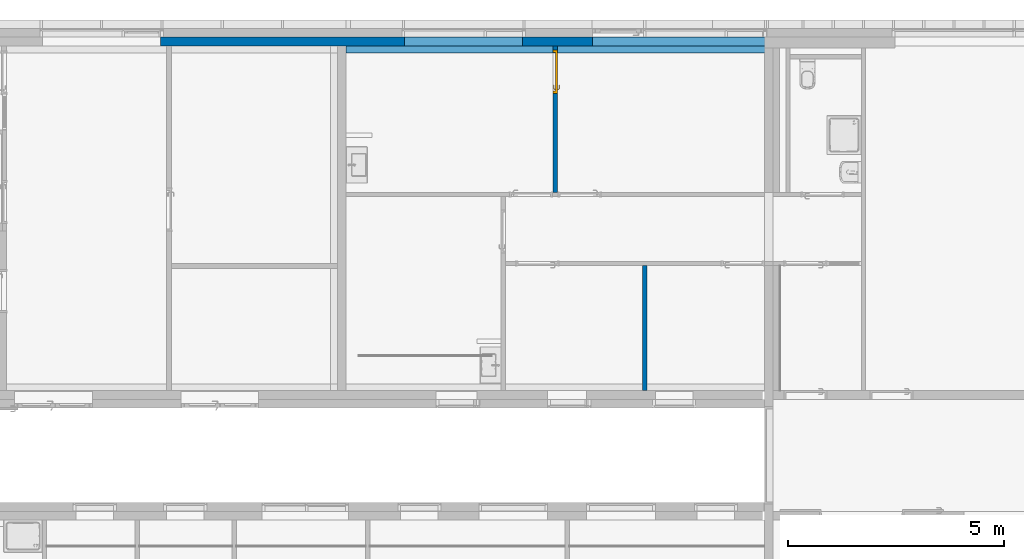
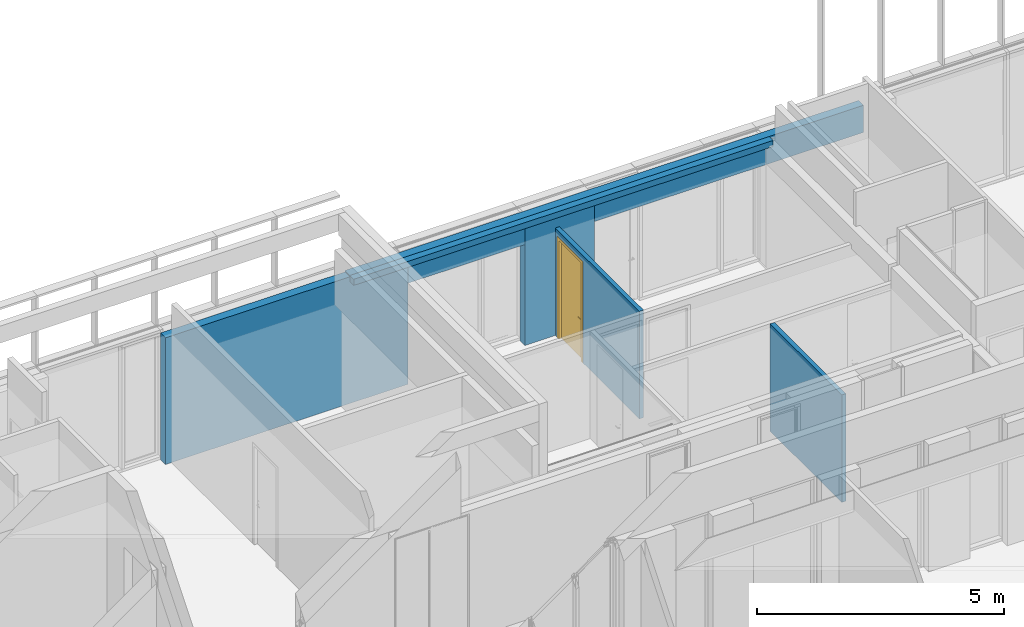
# One storey, part 134 of 240: 6 walls, 1 door, 1 opening.
"""IFC2X3 building model written with IfcOpenShell, lengths in centimetres."""

from ifc_helpers import new_model, entity, si_unit, converted_unit, derived_unit, direction, frame, frame_2d, origin, place, context, subcontext, project, spatial, polyline, rectangle, extrude, clip, halfspace, bounded_halfspace, faceted_brep, source, transform, mapped, material, material_list, layer, layer_set, layer_usage, type_object, type_shapes, element, fill, save


model = new_model("IFC2X3")

# Units and contexts
model_context = context("Model", 3, precision=0.001, world=origin(), true_north=direction((6.12303176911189e-17, 1.0)))
body_context = subcontext(model_context, "Body", "Model", "MODEL_VIEW")
ifc_project = project(units=[si_unit("LENGTHUNIT", "METRE", prefix="CENTI"), si_unit("AREAUNIT", "SQUARE_METRE"), si_unit("VOLUMEUNIT", "CUBIC_METRE"), converted_unit("PLANEANGLEUNIT", "DEGREE", entity("IfcRatioMeasure", 0.0174532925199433), si_unit("PLANEANGLEUNIT", "RADIAN"), dimensions=[0, 0, 0, 0, 0, 0, 0]), si_unit("MASSUNIT", "GRAM", prefix="KILO"), derived_unit("MASSDENSITYUNIT", [(si_unit("MASSUNIT", "GRAM", prefix="KILO"), 1), (si_unit("LENGTHUNIT", "METRE"), -3)]), si_unit("TIMEUNIT", "SECOND"), si_unit("FREQUENCYUNIT", "HERTZ"), si_unit("THERMODYNAMICTEMPERATUREUNIT", "DEGREE_CELSIUS"), derived_unit("THERMALTRANSMITTANCEUNIT", [(si_unit("MASSUNIT", "GRAM", prefix="KILO"), 1), (si_unit("THERMODYNAMICTEMPERATUREUNIT", "KELVIN"), -1), (si_unit("TIMEUNIT", "SECOND"), -3)]), derived_unit("VOLUMETRICFLOWRATEUNIT", [(si_unit("LENGTHUNIT", "METRE"), 3), (si_unit("TIMEUNIT", "SECOND"), -1)]), si_unit("ELECTRICCURRENTUNIT", "AMPERE"), si_unit("ELECTRICVOLTAGEUNIT", "VOLT"), si_unit("POWERUNIT", "WATT"), si_unit("FORCEUNIT", "NEWTON", prefix="KILO"), si_unit("ILLUMINANCEUNIT", "LUX"), si_unit("LUMINOUSFLUXUNIT", "LUMEN"), si_unit("LUMINOUSINTENSITYUNIT", "CANDELA"), derived_unit("USERDEFINED", [(si_unit("MASSUNIT", "GRAM", prefix="KILO"), -1), (si_unit("LENGTHUNIT", "METRE"), -2), (si_unit("TIMEUNIT", "SECOND"), 3), (si_unit("LUMINOUSFLUXUNIT", "LUMEN"), 1)]), derived_unit("LINEARVELOCITYUNIT", [(si_unit("LENGTHUNIT", "METRE"), 1), (si_unit("TIMEUNIT", "SECOND"), -1)]), si_unit("PRESSUREUNIT", "PASCAL"), derived_unit("USERDEFINED", [(si_unit("LENGTHUNIT", "METRE"), -2), (si_unit("MASSUNIT", "GRAM", prefix="KILO"), 1), (si_unit("TIMEUNIT", "SECOND"), -2)])], contexts=[model_context])

# Site, building, storey
site_placement = place(None, frame((-2781.94577612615, 7442.24238424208, 0.0)))
site = spatial("IfcSite", under=ifc_project, at=site_placement, Name="Default", CompositionType="ELEMENT")
building_placement = place(site_placement, origin())
building = spatial("IfcBuilding", under=site, at=building_placement, CompositionType="ELEMENT")
storey_placement = place(building_placement, origin())
storey = spatial("IfcBuildingStorey", under=building, at=storey_placement, Name="N00 - COO", CompositionType="ELEMENT", Elevation=0.0)

# Walls
ifc_material_1 = material(Name="01 - Maçonnerie")
ifc_layer_1 = layer(ifc_material_1, 20.0)
ifc_layer_set_1 = layer_set([ifc_layer_1], Name="Mur de base:04 - Structure - béton - 20cm")
ifc_layer_usage_1 = layer_usage(ifc_layer_set_1, "AXIS2", "NEGATIVE", 10.0)
wall_type_1 = type_object("IfcWallType", Name="Mur de base:04 - Structure - béton - 20cm", PredefinedType="STANDARD", material=ifc_layer_set_1)
wall_1_placement = place(building_placement, frame((-8828.01771068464, 0.0, 0.0), z_axis=(0.0, 0.0, 1.0), x_axis=(-1.0, 0.0, 0.0)))
element("IfcWallStandardCase", 1, at=wall_1_placement, inside=storey, type_object=wall_type_1, material=ifc_layer_usage_1, Name="Mur de base:04 - Structure - béton - 20cm", ObjectType="Mur de base:04 - Structure - béton - 20cm", context=body_context, shape_type="Clipping", body=[
    clip(extrude(rectangle(XDim=162.232166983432, YDim=20.0, at=frame_2d((81.116083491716, 0.0), x_axis=(-1.0, 0.0))), origin(), (0.0, 0.0, 1.0), 301.999999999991), halfspace(frame((0.0, -10.0, 302.0), z_axis=(0.0, 0.0, 1.0), x_axis=(0.0, 1.0, 0.0)), False)),
])
ifc_layer_usage_2 = layer_usage(ifc_layer_set_1, "AXIS2", "NEGATIVE", 10.0)
wall_2_placement = place(storey_placement, frame((-9399.49987766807, 0.0, 249.500000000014)))
element("IfcWallStandardCase", 2, at=wall_2_placement, inside=storey, type_object=wall_type_1, material=ifc_layer_usage_2, Name="Mur de base:04 - Structure - béton - 20cm", ObjectType="Mur de base:04 - Structure - béton - 20cm", context=body_context, shape_type="SweptSolid", body=[
    extrude(rectangle(XDim=1200.0, YDim=20.0, at=frame_2d((600.0, -8.88178419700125e-16), x_axis=(-1.0, 0.0))), origin(), (0.0, 0.0, 1.0), 67.0000000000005),
])
ifc_layer_usage_3 = layer_usage(ifc_layer_set_1, "AXIS2", "NEGATIVE", 10.0)
wall_3_placement = place(building_placement, frame((-9263.74987766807, 0.0, 0.0), z_axis=(0.0, 0.0, 1.0), x_axis=(-1.0, 0.0, 0.0)))
element("IfcWallStandardCase", 3, at=wall_3_placement, inside=storey, type_object=wall_type_1, material=ifc_layer_usage_3, Name="Mur de base:04 - Structure - béton - 20cm", ObjectType="Mur de base:04 - Structure - béton - 20cm", context=body_context, shape_type="SweptSolid", body=[
    extrude(rectangle(XDim=566.499999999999, YDim=20.0, at=frame_2d((283.25, 0.0), x_axis=(-1.0, 0.0))), origin(), (0.0, 0.0, 1.0), 312.999999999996),
])

# Wall, opening, door
ifc_material_2 = material(Name="01 - Enduit/Plâtre")
ifc_layer_2 = layer(ifc_material_2, 1.3)
ifc_material_3 = material(Name="00 - Isolant")
ifc_layer_3 = layer(ifc_material_3, 7.4)
ifc_layer_4 = layer(ifc_material_2, 1.3)
ifc_layer_set_2 = layer_set([ifc_layer_2, ifc_layer_3, ifc_layer_4], Name="Mur de base:06 - cloisons - Ba13 10cm")
ifc_layer_usage_4 = layer_usage(ifc_layer_set_2, "AXIS2", "NEGATIVE", 5.0)
wall_type_2 = type_object("IfcWallType", Name="Mur de base:06 - cloisons - Ba13 10cm", PredefinedType="STANDARD", material=ifc_layer_set_2)
wall_4_placement = place(building_placement, frame((-8914.49987760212, -350.0, 0.0), z_axis=(0.0, 0.0, 1.0), x_axis=(0.0, 1.0, 0.0)))
wall_4 = element("IfcWallStandardCase", 4, at=wall_4_placement, inside=storey, type_object=wall_type_2, material=ifc_layer_usage_4, Name="Mur de base:06 - cloisons - Ba13 10cm", ObjectType="Mur de base:06 - cloisons - Ba13 10cm", context=body_context, shape_type="SweptSolid", body=[
    extrude(rectangle(XDim=340.0, YDim=10.0000000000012, at=frame_2d((170.0, 0.0), x_axis=(-1.0, 0.0))), origin(), (0.0, 0.0, 1.0), 265.5),
])
opening_placement = place(wall_4_placement, frame((330.0, 5.0, 0.0)))
opening = element("IfcOpeningElement", 5, at=opening_placement, cuts=wall_4, Name="Int. Simple:PP simple (0.93m x 2.50m):1", ObjectType="Opening", context=body_context, shape_type="SweptSolid", body=[
    extrude(rectangle(XDim=248.500000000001, YDim=99.9999999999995, at=frame_2d((124.250000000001, 49.9999999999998), x_axis=(1.0, 0.0))), frame((0.0, 0.0, 0.0), z_axis=(0.0, -1.0, 0.0), x_axis=(0.0, 0.0, 1.0)), (0.0, 0.0, 1.0), 10.0),
])
ifc_material_4 = material(Name="Finition Peinture - Blanc satiné")
ifc_material_5 = material(Name="Bois - Panneau de porte")
ifc_material_6 = material(Name="Bois - Cadre de porte")
ifc_material_list_1 = material_list([ifc_material_4, ifc_material_5, ifc_material_6])
ifc_material_list_2 = material_list([ifc_material_4, ifc_material_5, ifc_material_6])
door_style = type_object("IfcDoorStyle", Name="PP simple (0.93m x 2.50m)", ConstructionType="NOTDEFINED", OperationType="SINGLE_SWING_LEFT", ParameterTakesPrecedence=False, Sizeable=False, material=ifc_material_list_2)
shared_shape = source(origin(), body_context, "Body", "Brep", [
    faceted_brep([(10.5352761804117, -0.500000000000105, 86.6003983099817), (11.5000000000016, -0.500000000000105, 87.0), (11.5000000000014, -0.500000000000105, 108.0), (10.5352761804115, -0.500000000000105, 108.399601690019), (9.50000000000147, -0.500000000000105, 108.535898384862), (8.46472381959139, -0.500000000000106, 108.399601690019), (7.50000000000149, -0.500000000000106, 108.0), (7.50000000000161, -0.500000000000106, 87.0), (8.46472381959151, -0.500000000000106, 86.6003983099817), (9.50000000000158, -0.500000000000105, 86.464101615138), (10.5352761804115, 0.0, 108.399601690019), (11.5000000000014, 0.0, 108.0), (11.5000000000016, 0.0, 87.0), (10.5352761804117, 0.0, 86.6003983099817), (9.50000000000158, 0.0, 86.464101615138), (8.46472381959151, 0.0, 86.6003983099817), (7.50000000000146, 0.0, 87.0), (7.50000000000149, 0.0, 108.0), (8.46472381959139, 0.0, 108.399601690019), (9.50000000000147, 0.0, 108.535898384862)], [[[0, 1, 2, 3, 4, 5, 6, 7, 8, 9]], [[10, 11, 12, 13, 14, 15, 16, 17, 18, 19]], [[16, 15, 8, 7]], [[8, 15, 14, 9]], [[14, 13, 0, 9]], [[13, 12, 1, 0]], [[2, 1, 12, 11]], [[11, 10, 3, 2]], [[3, 10, 19, 4]], [[19, 18, 5, 4]], [[18, 17, 6, 5]], [[7, 6, 17, 16]]]),
    faceted_brep([(10.5352761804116, 4.0, 86.6003983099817), (11.5000000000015, 4.0, 87.0), (11.5000000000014, 4.0, 108.0), (10.5352761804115, 4.0, 108.399601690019), (9.50000000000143, 4.0, 108.535898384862), (8.46472381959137, 4.0, 108.399601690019), (7.50000000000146, 4.0, 108.0), (7.50000000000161, 4.0, 87.0), (8.46472381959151, 4.0, 86.6003983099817), (9.50000000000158, 4.0, 86.464101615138), (10.5352761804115, 4.49999999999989, 108.399601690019), (11.5000000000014, 4.49999999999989, 108.0), (11.5000000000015, 4.49999999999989, 87.0), (10.5352761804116, 4.49999999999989, 86.6003983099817), (9.50000000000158, 4.49999999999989, 86.464101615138), (8.46472381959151, 4.49999999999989, 86.6003983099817), (7.50000000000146, 4.49999999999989, 87.0), (7.50000000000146, 4.49999999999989, 108.0), (8.46472381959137, 4.49999999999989, 108.399601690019), (9.50000000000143, 4.49999999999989, 108.535898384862)], [[[0, 1, 2, 3, 4, 5, 6, 7, 8, 9]], [[10, 11, 12, 13, 14, 15, 16, 17, 18, 19]], [[11, 10, 3, 2]], [[3, 10, 19, 4]], [[19, 18, 5, 4]], [[18, 17, 6, 5]], [[7, 6, 17, 16]], [[16, 15, 8, 7]], [[8, 15, 14, 9]], [[14, 13, 0, 9]], [[13, 12, 1, 0]], [[2, 1, 12, 11]]]),
    faceted_brep([(9.29747013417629, -0.500000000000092, 100.778044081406), (9.70252986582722, -0.50000000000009, 100.778044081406), (10.1000000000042, -0.500000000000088, 100.699999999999), (10.1000000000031, -0.500000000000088, 99.3000000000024), (9.7025298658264, -0.50000000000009, 99.2219559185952), (9.29747013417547, -0.500000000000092, 99.221955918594), (8.8999999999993, -0.500000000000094, 99.2999999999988), (8.89999999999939, -0.500000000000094, 100.7), (8.89999999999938, -3.26509507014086, 100.7), (9.29747013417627, -3.10045754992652, 100.778044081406), (10.9023585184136, -4.70534593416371, 100.778044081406), (11.0701397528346, -4.30028620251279, 100.778044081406), (9.7025298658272, -2.93267631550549, 100.778044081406), (10.1000000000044, -2.76803879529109, 100.7), (10.1000000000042, -2.76803879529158, 99.3000000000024), (9.7025298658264, -2.93267631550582, 99.2219559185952), (11.0701397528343, -4.30028620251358, 99.2219559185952), (10.9023585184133, -4.70534593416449, 99.221955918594), (9.29747013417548, -3.10045754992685, 99.221955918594), (8.89999999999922, -3.26509507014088, 99.2999999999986), (10.7377209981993, -5.10281606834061, 100.7), (11.2347772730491, -3.90281606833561, 100.7), (11.2347772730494, -3.90281606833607, 99.3000000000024), (10.7377209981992, -5.10281606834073, 99.2999999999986), (19.5018640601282, -5.10281606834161, 99.2999999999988), (19.5018640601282, -4.70534593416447, 99.221955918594), (19.5018640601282, -4.30028620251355, 99.2219559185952), (19.5018640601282, -3.9028160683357, 99.3000000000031), (19.5018640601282, -3.90281606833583, 100.7), (19.5018640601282, -4.30028620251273, 100.778044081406), (19.5018640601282, -4.70534593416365, 100.778044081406), (19.5018640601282, -5.10281606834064, 100.699999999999), (14.7307697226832, -5.10281606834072, 100.7), (15.2860019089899, -4.5028160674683, 100.78786867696), (15.3683206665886, -3.9028160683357, 100.7), (15.3683206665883, -3.9028160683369, 99.3000000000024), (15.2860018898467, -4.50281607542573, 99.2121313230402), (14.7307700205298, -5.10281606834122, 99.2999999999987)], [[[0, 1, 2, 3, 4, 5, 6, 7]], [[8, 9, 0, 7]], [[9, 10, 11, 12, 1, 0]], [[12, 13, 2, 1]], [[3, 2, 13, 14]], [[14, 15, 4, 3]], [[15, 16, 17, 18, 5, 4]], [[18, 19, 6, 5]], [[7, 6, 19, 8]], [[20, 10, 9, 8]], [[11, 21, 13, 12]], [[14, 13, 21, 22]], [[22, 16, 15, 14]], [[17, 23, 19, 18]], [[8, 19, 23, 20]], [[24, 25, 26, 27, 28, 29, 30, 31]], [[32, 30, 33]], [[31, 30, 32]], [[10, 20, 32]], [[33, 34, 11]], [[21, 11, 34]], [[34, 29, 28]], [[30, 29, 33]], [[29, 34, 33]], [[10, 32, 33]], [[10, 33, 11]], [[22, 21, 34, 28, 27, 35]], [[35, 26, 36]], [[37, 36, 25]], [[22, 35, 16]], [[35, 27, 26]], [[24, 37, 25]], [[23, 17, 37]], [[37, 17, 36]], [[17, 16, 36]], [[16, 35, 36]], [[25, 36, 26]], [[20, 23, 37, 24, 31, 32]]]),
    faceted_brep([(9.29747013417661, 4.49999999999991, 100.778044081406), (8.89999999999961, 4.4999999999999, 100.7), (8.89999999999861, 4.4999999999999, 99.2999999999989), (9.29747013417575, 4.49999999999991, 99.221955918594), (9.70252986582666, 4.49999999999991, 99.2219559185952), (10.1000000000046, 4.49999999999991, 99.3000000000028), (10.1000000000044, 4.49999999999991, 100.7), (9.70252986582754, 4.49999999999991, 100.778044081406), (10.1000000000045, 6.7485204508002, 99.3000000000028), (10.1000000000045, 6.74852045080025, 100.7), (9.70252986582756, 6.91315797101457, 100.778044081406), (11.083890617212, 8.29451872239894, 100.778044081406), (10.916109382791, 8.69957845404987, 100.778044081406), (9.29747013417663, 7.0809392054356, 100.778044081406), (8.89999999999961, 7.24557672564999, 100.7), (8.89999999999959, 7.2455767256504, 99.2999999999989), (9.29747013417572, 7.08093920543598, 99.221955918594), (10.9161093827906, 8.69957845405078, 99.221955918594), (11.0838906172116, 8.29451872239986, 99.2219559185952), (9.70252986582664, 6.91315797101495, 99.2219559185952), (11.2485281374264, 7.89704858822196, 99.3000000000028), (11.2485281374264, 7.89704858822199, 100.7), (10.7514718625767, 9.09704858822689, 100.7), (10.7514718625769, 9.0970485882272, 99.2999999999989), (19.5045783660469, 7.89704858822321, 99.3000000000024), (19.5045783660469, 8.29451872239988, 99.2219559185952), (19.5045783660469, 8.6995784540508, 99.221955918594), (19.5045783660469, 9.09704858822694, 99.2999999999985), (19.5045783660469, 9.09704858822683, 100.7), (19.5045783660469, 8.69957845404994, 100.778044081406), (19.5045783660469, 8.29451872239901, 100.778044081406), (19.5045783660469, 7.89704858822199, 100.7), (15.3765520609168, 7.89704858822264, 99.3000000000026), (15.3765532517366, 7.89704858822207, 100.7), (15.294234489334, 8.49704858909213, 100.78786867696), (14.7445205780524, 9.09704858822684, 100.7), (14.7445204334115, 9.09704858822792, 99.2999999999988), (15.2942345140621, 8.49704858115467, 99.2121313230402)], [[[0, 1, 2, 3, 4, 5, 6, 7]], [[6, 5, 8, 9]], [[9, 10, 7, 6]], [[10, 11, 12, 13, 0, 7]], [[13, 14, 1, 0]], [[2, 1, 14, 15]], [[15, 16, 3, 2]], [[16, 17, 18, 19, 4, 3]], [[19, 8, 5, 4]], [[9, 8, 20, 21]], [[21, 11, 10, 9]], [[12, 22, 14, 13]], [[15, 14, 22, 23]], [[23, 17, 16, 15]], [[18, 20, 8, 19]], [[24, 25, 26, 27, 28, 29, 30, 31]], [[21, 20, 32, 24, 31, 33]], [[33, 30, 34]], [[35, 34, 29]], [[21, 33, 11]], [[33, 31, 30]], [[28, 35, 29]], [[22, 12, 35]], [[35, 12, 34]], [[12, 11, 34]], [[11, 33, 34]], [[29, 34, 30]], [[22, 35, 28, 27, 36, 23]], [[36, 26, 37]], [[27, 26, 36]], [[17, 23, 36]], [[37, 32, 18]], [[20, 18, 32]], [[32, 25, 24]], [[26, 25, 37]], [[25, 32, 37]], [[17, 36, 37]], [[17, 37, 18]]]),
    faceted_brep([(3.50000000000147, 4.0, 245.0), (96.5000000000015, 4.0, 245.0), (96.5000000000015, 4.0, 0.0), (3.50000000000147, 4.0, 0.0), (3.50000000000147, 0.0, 245.0), (3.50000000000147, 0.0, 0.0), (96.5000000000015, 0.0, 0.0), (96.5000000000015, 0.0, 245.0)], [[[0, 1, 2, 3]], [[4, 5, 6, 7]], [[1, 0, 4, 7]], [[2, 1, 7, 6]], [[3, 2, 6, 5]], [[0, 3, 5, 4]]]),
    faceted_brep([(0.0, 10.0, 0.0), (-1.50000000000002, 10.0, 0.0), (-1.50000000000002, 10.5000000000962, 0.0), (5.0, 10.5000000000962, 0.0), (5.0, 4.0, 0.0), (3.50000000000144, 4.0, 0.0), (3.50000000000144, -0.500000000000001, 0.0), (-1.50000000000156, -0.500000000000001, 0.0), (-1.50000000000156, 0.0, 0.0), (0.0, 0.0, 0.0), (0.0, 0.0, 248.500000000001), (0.0, 10.0, 248.500000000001), (100.0, 10.0, 248.500000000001), (100.0, 10.0, 0.0), (101.5, 10.0, 0.0), (101.5, 10.0, 250.0), (-1.50000000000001, 10.0, 250.0), (5.0, 10.5000000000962, 243.5), (5.0, 4.0, 243.5), (95.0, 4.0, 243.5), (95.0, 4.0, 0.0), (96.499999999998, 4.0, 0.0), (96.499999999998, 4.0, 245.0), (3.50000000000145, 4.0, 245.0), (100.0, 0.0, 248.500000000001), (100.0, 0.0, 0.0), (101.500000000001, 0.0, 0.0), (101.500000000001, -0.500000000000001, 0.0), (96.499999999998, -0.500000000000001, 0.0), (95.0, 10.5000000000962, 0.0), (101.5, 10.5000000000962, 0.0), (95.0, 10.5000000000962, 243.5), (3.50000000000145, -0.500000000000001, 245.0), (96.499999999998, -0.500000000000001, 245.0), (101.500000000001, -0.500000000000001, 250.0), (-1.50000000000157, -0.500000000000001, 250.0), (-1.50000000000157, 0.0, 250.0), (101.500000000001, 0.0, 250.0), (-1.50000000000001, 10.5000000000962, 250.0), (101.5, 10.5000000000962, 250.0)], [[[0, 1, 2, 3, 4, 5, 6, 7, 8, 9]], [[0, 9, 10, 11]], [[1, 0, 11, 12, 13, 14, 15, 16]], [[3, 17, 18, 4]], [[5, 4, 18, 19, 20, 21, 22, 23]], [[12, 24, 25, 13]], [[13, 25, 26, 27, 28, 21, 20, 29, 30, 14]], [[19, 31, 29, 20]], [[11, 10, 24, 12]], [[18, 17, 31, 19]], [[5, 23, 32, 6]], [[7, 6, 32, 33, 28, 27, 34, 35]], [[8, 7, 35, 36]], [[9, 8, 36, 37, 26, 25, 24, 10]], [[2, 1, 16, 38]], [[3, 2, 38, 39, 30, 29, 31, 17]], [[33, 22, 21, 28]], [[37, 34, 27, 26]], [[39, 15, 14, 30]], [[32, 23, 22, 33]], [[36, 35, 34, 37]], [[38, 16, 15, 39]]]),
])
type_shapes(door_style, [shared_shape])
door_placement = place(opening_placement, frame((-100.0, -10.0, 0.0)))
door = element("IfcDoor", 6, at=door_placement, inside=storey, type_object=door_style, material=ifc_material_list_1, Name="Int. Simple:PP simple (0.93m x 2.50m)", ObjectType="Int. Simple:PP simple (0.93m x 2.50m)", OverallHeight=248.500000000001, OverallWidth=99.9999999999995, context=body_context, shape_type="MappedRepresentation", body=[
    mapped(shared_shape, transform((0.0, 0.0, 0.0), scale=1.0)),
])
fill(opening, door)

# Walls
ifc_layer_usage_5 = layer_usage(ifc_layer_set_2, "AXIS2", "NEGATIVE", 5.0)
wall_5_placement = place(building_placement, frame((-8706.99987766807, -520.0, 0.0), z_axis=(0.0, 0.0, 1.0), x_axis=(0.0, -1.0, 0.0)))
element("IfcWallStandardCase", 7, at=wall_5_placement, inside=storey, type_object=wall_type_2, material=ifc_layer_usage_5, Name="Mur de base:06 - cloisons - Ba13 10cm", ObjectType="Mur de base:06 - cloisons - Ba13 10cm", context=body_context, shape_type="Clipping", body=[
    clip(extrude(rectangle(XDim=290.048500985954, YDim=10.0000000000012, at=frame_2d((145.024250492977, 0.0), x_axis=(-1.0, 0.0))), origin(), (0.0, 0.0, 1.0), 265.5), bounded_halfspace(frame((290.048500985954, -5.0, 265.5), z_axis=(-1.0, 0.0, 0.0), x_axis=(0.0, -1.0, 0.0)), True, frame((290.048500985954, -5.0, 265.5), z_axis=(-1.0, 0.0, 0.0), x_axis=(0.0, -1.0, 0.0)), polyline([(0.0, 0.0), (-10.0, 0.0), (-10.0, -265.5), (0.0, -265.5), (0.0, 0.0)]))),
])
ifc_layer_5 = layer(ifc_material_3, 16.0)
ifc_layer_set_3 = layer_set([ifc_layer_5], Name="Mur de base:04 - retour isolation acrotère - ITE 16cm")
ifc_layer_usage_6 = layer_usage(ifc_layer_set_3, "AXIS2", "NEGATIVE", 8.0)
wall_type_3 = type_object("IfcWallType", Name="Mur de base:04 - retour isolation acrotère - ITE 16cm", PredefinedType="STANDARD", material=ifc_layer_set_3)
wall_6_placement = place(building_placement, frame((-9399.49987766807, -18.0, 301.5)))
element("IfcWallStandardCase", 8, at=wall_6_placement, inside=storey, type_object=wall_type_3, material=ifc_layer_usage_6, Name="Mur de base:04 - retour isolation acrotère - ITE 16cm", ObjectType="Mur de base:04 - retour isolation acrotère - ITE 16cm", context=body_context, shape_type="SweptSolid", body=[
    extrude(rectangle(XDim=980.000000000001, YDim=16.0, at=frame_2d((490.0, 0.0), x_axis=(-1.0, 0.0))), origin(), (0.0, 0.0, 1.0), 15.000000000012),
])

save(model, "model.ifc")
